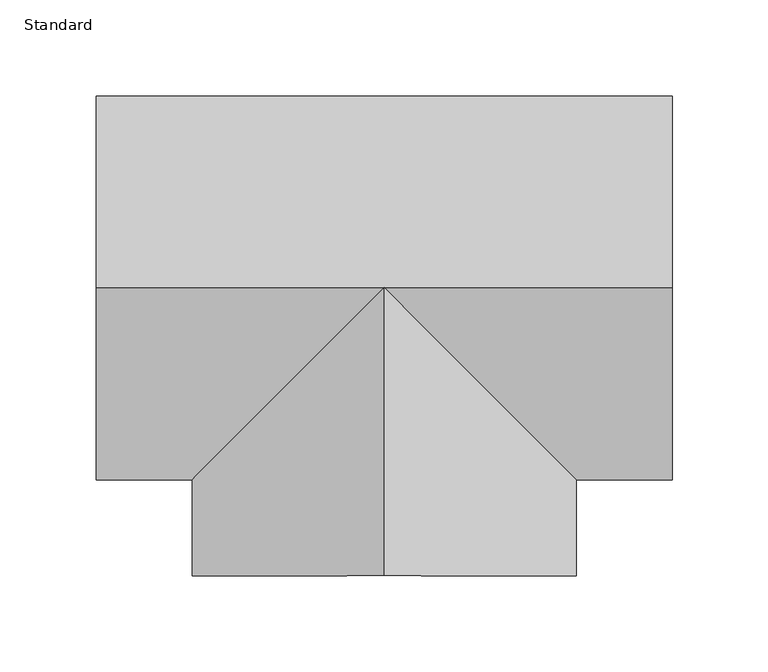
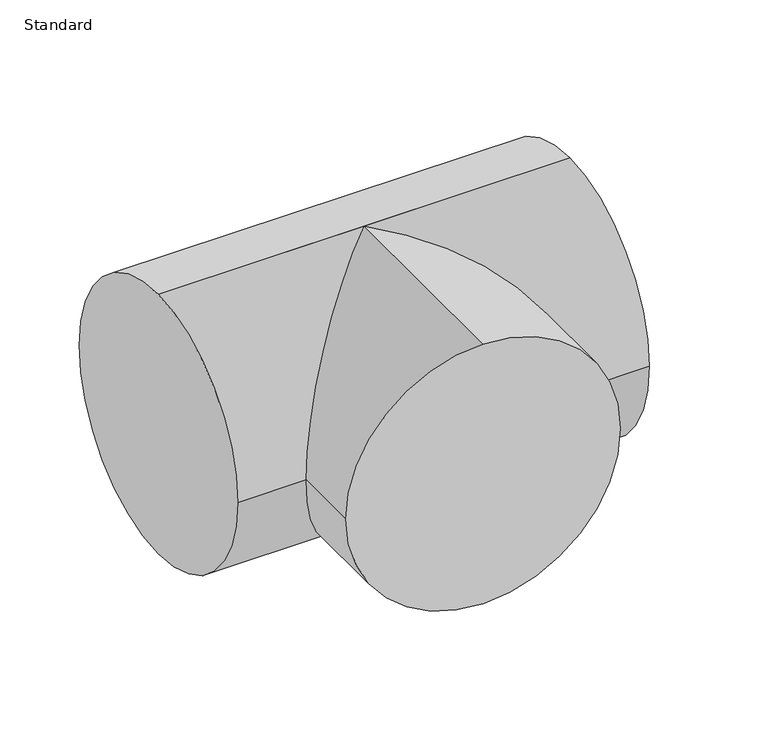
"""IFC4 building model written with IfcOpenShell, lengths in millimetres: duct fitting geometry, Té circulaire : Standard."""

from ifc_helpers import new_model, si_unit, frame, origin, place, context, project, spatial, circle_curve, ellipse_curve, source, transform, mapped, element, save
from ifc_brep_helpers import plane_surface, cylinder_surface, advanced_brep


def standard_5f48207d(model_context):
    return source(origin(), model_context, "Body", "AdvancedBrep", [
        advanced_brep(
        [(0.0, -150.0, 100.0), (-100.0, -150.0, 0.0), (0.0, -150.0, -100.0), (100.0, -150.0, 0.0), (100.0, -100.0, 0.0), (0.0, 0.0, 100.0), (0.0, 0.0, -100.0), (-100.0, -100.0, 0.0), (-150.0, 0.0, 100.0), (-150.0, 100.0, 0.0), (-150.0, 0.0, -100.0), (-150.0, -100.0, 0.0), (150.0, 0.0, 100.0), (150.0, -100.0, 0.0), (150.0, 0.0, -100.0), (150.0, 100.0, 0.0)],
        [
            (0, 1, circle_curve(frame((0.0, -150.0, 0.0), z_axis=(0.0, -1.0, 0.0), x_axis=(1.0, 0.0, 0.0)), 100.0)),
            (1, 2, circle_curve(frame((0.0, -150.0, 0.0), z_axis=(0.0, -1.0, 0.0), x_axis=(1.0, 0.0, 0.0)), 100.0)),
            (2, 3, circle_curve(frame((0.0, -150.0, 0.0), z_axis=(0.0, -1.0, 0.0), x_axis=(1.0, 0.0, 0.0)), 100.0)),
            (3, 0, circle_curve(frame((0.0, -150.0, 0.0), z_axis=(0.0, -1.0, 0.0), x_axis=(1.0, 0.0, 0.0)), 100.0)),
            (3, 4),
            (4, 5, ellipse_curve(frame((0.0, 0.0, 0.0), z_axis=(-0.7071067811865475, -0.7071067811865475, 0.0), x_axis=(-0.7071067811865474, 0.7071067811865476, 0.0)), 141.4213562, 100.0)),
            (5, 0),
            (2, 6),
            (6, 4, ellipse_curve(frame((0.0, 0.0, 0.0), z_axis=(-0.7071067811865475, -0.7071067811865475, 0.0), x_axis=(-0.7071067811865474, 0.7071067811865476, 0.0)), 141.4213562, 100.0)),
            (1, 7),
            (7, 6, ellipse_curve(frame((0.0, 0.0, 0.0), z_axis=(0.7071067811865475, -0.7071067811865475, 0.0), x_axis=(0.7071067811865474, 0.7071067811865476, 0.0)), 141.4213562, 100.0)),
            (5, 7, ellipse_curve(frame((0.0, 0.0, 0.0), z_axis=(0.7071067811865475, -0.7071067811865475, 0.0), x_axis=(0.7071067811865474, 0.7071067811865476, 0.0)), 141.4213562, 100.0)),
            (8, 9, circle_curve(frame((-150.0, 0.0, 0.0), z_axis=(-1.0, 0.0, 0.0), x_axis=(0.0, 1.0, 0.0)), 100.0)),
            (9, 10, circle_curve(frame((-150.0, 0.0, 0.0), z_axis=(-1.0, 0.0, 0.0), x_axis=(0.0, 1.0, 0.0)), 100.0)),
            (10, 11, circle_curve(frame((-150.0, 0.0, 0.0), z_axis=(-1.0, 0.0, 0.0), x_axis=(0.0, 1.0, 0.0)), 100.0)),
            (11, 8, circle_curve(frame((-150.0, 0.0, 0.0), z_axis=(-1.0, 0.0, 0.0), x_axis=(0.0, 1.0, 0.0)), 100.0)),
            (12, 13, circle_curve(frame((150.0, 0.0, 0.0), z_axis=(1.0, 0.0, 0.0), x_axis=(0.0, 1.0, 0.0)), 100.0)),
            (13, 14, circle_curve(frame((150.0, 0.0, 0.0), z_axis=(1.0, 0.0, 0.0), x_axis=(0.0, 1.0, 0.0)), 100.0)),
            (14, 15, circle_curve(frame((150.0, 0.0, 0.0), z_axis=(1.0, 0.0, 0.0), x_axis=(0.0, 1.0, 0.0)), 100.0)),
            (15, 12, circle_curve(frame((150.0, 0.0, 0.0), z_axis=(1.0, 0.0, 0.0), x_axis=(0.0, 1.0, 0.0)), 100.0)),
            (8, 5),
            (5, 12),
            (15, 9),
            (14, 6),
            (6, 10),
            (7, 11),
            (13, 4),
        ],
        [
            plane_surface(frame((0.0, -150.0, 0.0), z_axis=(0.0, -1.0, 0.0), x_axis=(0.0, 0.0, 1.0))),
            cylinder_surface(frame((0.0, 0.0, 0.0), z_axis=(0.0, 1.0, 0.0), x_axis=(1.0, 0.0, 0.0)), 100.0),
            plane_surface(frame((-150.0, 0.0, 0.0), z_axis=(-1.0, 0.0, 0.0), x_axis=(0.0, 0.0, 1.0))),
            plane_surface(frame((150.0, 0.0, 0.0), z_axis=(1.0, 0.0, 0.0), x_axis=(0.0, 0.0, 1.0))),
            cylinder_surface(frame((-150.0, 0.0, 0.0), z_axis=(-1.0, 0.0, 0.0), x_axis=(0.0, 1.0, 0.0)), 100.0),
        ],
        [
            (0, [[1, 2, 3, 4]]),
            (1, [[-4, 5, 6, 7]]),
            (1, [[-3, 8, 9, -5]]),
            (1, [[-2, 10, 11, -8]]),
            (1, [[-1, -7, 12, -10]]),
            (2, [[13, 14, 15, 16]]),
            (3, [[17, 18, 19, 20]]),
            (4, [[-13, 21, 22, -20, 23]]),
            (4, [[-14, -23, -19, 24, 25]]),
            (4, [[-15, -25, -11, 26]]),
            (4, [[-18, 27, -9, -24]]),
            (4, [[-16, -26, -12, -21]]),
            (4, [[-17, -22, -6, -27]]),
        ],
    ),
    ])


if __name__ == "__main__":
    model = new_model("IFC4")
    model_context = context("Model", 3, world=origin())
    ifc_project = project(units=[si_unit("LENGTHUNIT", "METRE", prefix="MILLI")], contexts=[model_context])
    site = spatial("IfcSite", under=ifc_project)
    building = spatial("IfcBuilding", under=site)
    placement = place(None, origin())
    standard_shape = standard_5f48207d(model_context)
    element("IfcDuctFitting", 1, ObjectType="Té circulaire : Standard", at=placement, inside=building, context=model_context, shape_type="MappedRepresentation", body=[
        mapped(standard_shape, transform((0.0, 0.0, 0.0), x_axis=(1.0, 0.0, 0.0), y_axis=(0.0, 1.0, 0.0), z_axis=(0.0, 0.0, 1.0))),
    ])
    save(model, "model.ifc")
